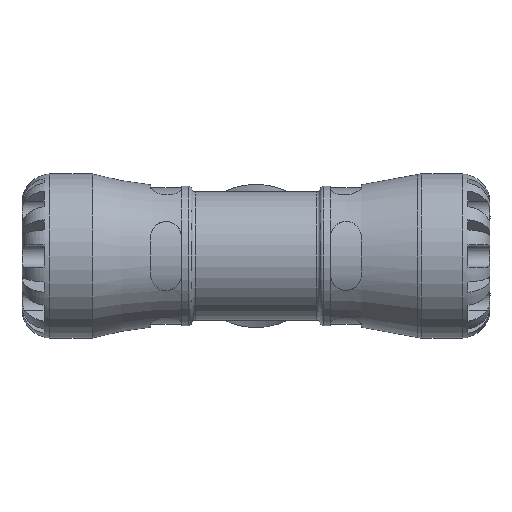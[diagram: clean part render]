
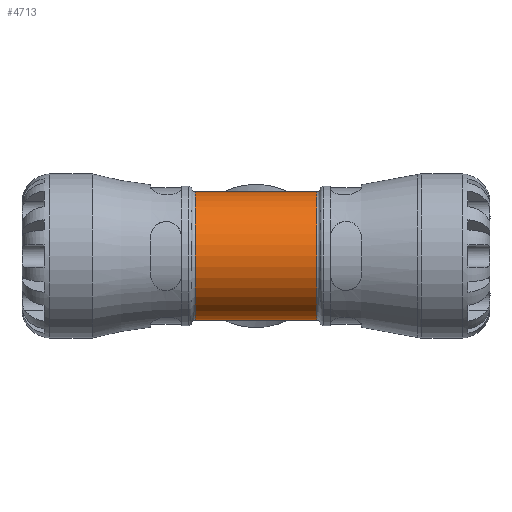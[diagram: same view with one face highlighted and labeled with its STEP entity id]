
A CAD part, front view. The second image highlights one B-rep face of the part: STEP entity #4713.
In plain terms, the highlighted cylindrical face has radius 18.33 mm (diameter 36.66 mm), a full revolution.
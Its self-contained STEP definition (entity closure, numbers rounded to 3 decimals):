
#684=FACE_BOUND('',#1115,.T.);
#685=FACE_BOUND('',#1116,.T.);
#728=CYLINDRICAL_SURFACE('',#5003,18.33);
#826=FACE_OUTER_BOUND('',#1114,.T.);
#1114=EDGE_LOOP('',(#3042));
#1115=EDGE_LOOP('',(#3043));
#1116=EDGE_LOOP('',(#3044));
#1443=B_SPLINE_CURVE_WITH_KNOTS('',3,(#7016,#7017,#7018,#7019,#7020,#7021,
#7022,#7023,#7024,#7025,#7026,#7027,#7028,#7029,#7030,#7031,#7032,#7033,
#7034,#7035,#7036,#7037,#7038,#7039,#7040,#7041,#7042),.UNSPECIFIED.,.T.,
 .F.,(4,1,1,1,1,1,1,1,1,1,1,1,1,1,1,1,1,1,1,1,1,1,1,1,4),(-10.602,
-10.223,-9.845,-9.087,-8.582,
-8.078,-7.573,-7.068,-6.563,
-6.058,-5.553,-5.301,-5.048,
-4.796,-4.544,-4.291,-4.039,
-3.534,-3.029,-2.65,-2.272,
-1.515,-0.757,-0.379,0.),
 .UNSPECIFIED.);
#1647=CIRCLE('',#5004,18.33);
#1648=CIRCLE('',#5005,18.33);
#1895=VERTEX_POINT('',#6986);
#1898=VERTEX_POINT('',#7047);
#1899=VERTEX_POINT('',#7049);
#2345=EDGE_CURVE('',#1895,#1895,#1443,.T.);
#2347=EDGE_CURVE('',#1898,#1898,#1647,.T.);
#2348=EDGE_CURVE('',#1899,#1899,#1648,.T.);
#3042=ORIENTED_EDGE('',*,*,#2347,.F.);
#3043=ORIENTED_EDGE('',*,*,#2348,.F.);
#3044=ORIENTED_EDGE('',*,*,#2345,.F.);
#4713=ADVANCED_FACE('',(#826,#684,#685),#728,.T.);
#5003=AXIS2_PLACEMENT_3D('',#7046,#5544,#5545);
#5004=AXIS2_PLACEMENT_3D('',#7048,#5546,#5547);
#5005=AXIS2_PLACEMENT_3D('',#7050,#5548,#5549);
#5544=DIRECTION('center_axis',(1.,0.,0.));
#5545=DIRECTION('ref_axis',(0.,1.,0.));
#5546=DIRECTION('center_axis',(-1.,0.,0.));
#5547=DIRECTION('ref_axis',(0.,1.,0.));
#5548=DIRECTION('center_axis',(1.,0.,0.));
#5549=DIRECTION('ref_axis',(0.,1.,0.));
#6986=CARTESIAN_POINT('',(0.,8.856,16.049));
#7016=CARTESIAN_POINT('Ctrl Pts',(0.,8.856,
16.048));
#7017=CARTESIAN_POINT('Ctrl Pts',(1.324,8.856,16.048));
#7018=CARTESIAN_POINT('Ctrl Pts',(3.972,9.478,15.719));
#7019=CARTESIAN_POINT('Ctrl Pts',(8.4,11.903,14.105));
#7020=CARTESIAN_POINT('Ctrl Pts',(12.352,14.914,11.118));
#7021=CARTESIAN_POINT('Ctrl Pts',(15.388,17.418,6.367));
#7022=CARTESIAN_POINT('Ctrl Pts',(16.694,18.538,1.341));
#7023=CARTESIAN_POINT('Ctrl Pts',(16.239,18.144,-3.949));
#7024=CARTESIAN_POINT('Ctrl Pts',(14.215,16.438,-8.535));
#7025=CARTESIAN_POINT('Ctrl Pts',(11.151,13.975,-12.08));
#7026=CARTESIAN_POINT('Ctrl Pts',(7.362,11.28,-14.58));
#7027=CARTESIAN_POINT('Ctrl Pts',(3.55,9.271,-15.827));
#7028=CARTESIAN_POINT('Ctrl Pts',(-0.001,8.719,
-16.121));
#7029=CARTESIAN_POINT('Ctrl Pts',(-2.659,9.129,-15.902));
#7030=CARTESIAN_POINT('Ctrl Pts',(-5.078,10.088,-15.324));
#7031=CARTESIAN_POINT('Ctrl Pts',(-7.263,11.307,-14.457));
#7032=CARTESIAN_POINT('Ctrl Pts',(-9.254,12.625,-13.331));
#7033=CARTESIAN_POINT('Ctrl Pts',(-11.664,14.388,-11.487));
#7034=CARTESIAN_POINT('Ctrl Pts',(-14.216,16.437,-8.538));
#7035=CARTESIAN_POINT('Ctrl Pts',(-16.067,18.,-4.327));
#7036=CARTESIAN_POINT('Ctrl Pts',(-16.619,18.472,-0.003));
#7037=CARTESIAN_POINT('Ctrl Pts',(-15.956,17.904,5.204));
#7038=CARTESIAN_POINT('Ctrl Pts',(-12.957,15.376,10.675));
#7039=CARTESIAN_POINT('Ctrl Pts',(-8.401,11.903,14.099));
#7040=CARTESIAN_POINT('Ctrl Pts',(-3.971,9.478,15.721));
#7041=CARTESIAN_POINT('Ctrl Pts',(-1.324,8.856,16.048));
#7042=CARTESIAN_POINT('Ctrl Pts',(0.,8.856,
16.048));
#7046=CARTESIAN_POINT('Origin',(9.165,0.,0.));
#7047=CARTESIAN_POINT('',(-17.405,-18.33,0.));
#7048=CARTESIAN_POINT('Origin',(-17.405,0.,0.));
#7049=CARTESIAN_POINT('',(17.405,-18.33,0.));
#7050=CARTESIAN_POINT('Origin',(17.405,0.,0.));
